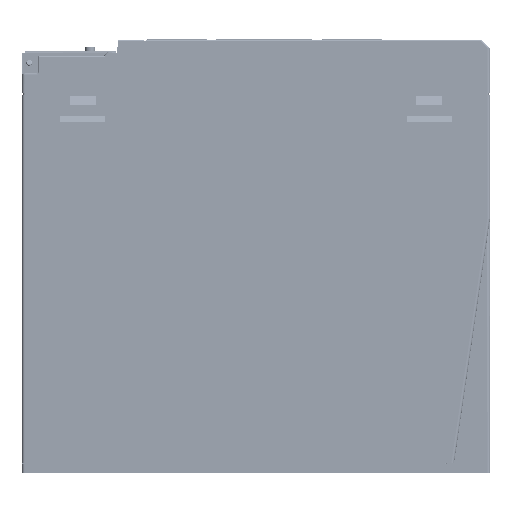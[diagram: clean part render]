
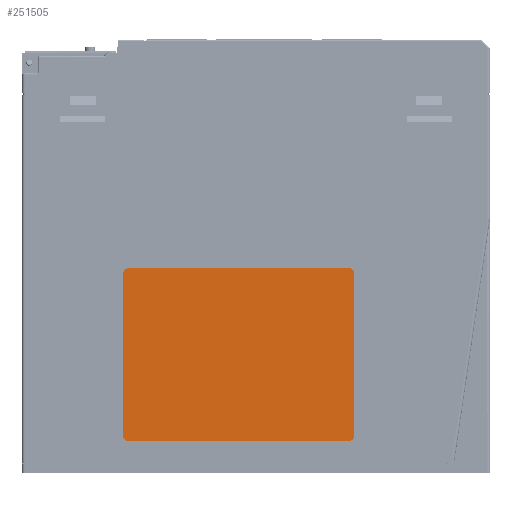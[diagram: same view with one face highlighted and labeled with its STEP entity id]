
A CAD part, left-side view. The second image highlights one B-rep face of the part: STEP entity #251505.
In plain terms, the highlighted planar face has unit normal (-1, 0, 0).
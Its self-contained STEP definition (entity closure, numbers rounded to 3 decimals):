
#251430=CARTESIAN_POINT('',(-13.7,-52.0,41.));
#251431=DIRECTION('',(-1.0,0.0,0.0));
#251432=DIRECTION('',(0.0,0.0,1.0));
#251433=AXIS2_PLACEMENT_3D('',#251430,#251431,#251432);
#251434=PLANE('',#251433);
#251435=CARTESIAN_POINT('',(-13.7,-12.,69.));
#251436=VERTEX_POINT('',#251435);
#251437=CARTESIAN_POINT('',(-13.7,-14.,71.));
#251438=VERTEX_POINT('',#251437);
#251439=CARTESIAN_POINT('',(-13.7,-14.,69.));
#251440=DIRECTION('',(1.0,0.0,0.0));
#251441=DIRECTION('',(0.0,0.0,-1.0));
#251442=AXIS2_PLACEMENT_3D('',#251439,#251440,#251441);
#251443=CIRCLE('',#251442,2.);
#251444=EDGE_CURVE('',#251436,#251438,#251443,.T.);
#251445=ORIENTED_EDGE('',*,*,#251444,.F.);
#251446=CARTESIAN_POINT('',(-13.7,-12.,13.));
#251447=VERTEX_POINT('',#251446);
#251448=CARTESIAN_POINT('',(-13.7,-12.,13.));
#251449=DIRECTION('',(0.0,0.0,1.0));
#251450=VECTOR('',#251449,56.);
#251451=LINE('',#251448,#251450);
#251452=EDGE_CURVE('',#251447,#251436,#251451,.T.);
#251453=ORIENTED_EDGE('',*,*,#251452,.F.);
#251454=CARTESIAN_POINT('',(-13.7,-14.,11.));
#251455=VERTEX_POINT('',#251454);
#251456=CARTESIAN_POINT('',(-13.7,-14.,13.));
#251457=DIRECTION('',(1.0,0.0,0.0));
#251458=DIRECTION('',(0.0,-1.0,0.0));
#251459=AXIS2_PLACEMENT_3D('',#251456,#251457,#251458);
#251460=CIRCLE('',#251459,2.);
#251461=EDGE_CURVE('',#251455,#251447,#251460,.T.);
#251462=ORIENTED_EDGE('',*,*,#251461,.F.);
#251463=CARTESIAN_POINT('',(-13.7,-90.,11.));
#251464=VERTEX_POINT('',#251463);
#251465=CARTESIAN_POINT('',(-13.7,-90.,11.));
#251466=DIRECTION('',(0.0,1.0,0.0));
#251467=VECTOR('',#251466,76.);
#251468=LINE('',#251465,#251467);
#251469=EDGE_CURVE('',#251464,#251455,#251468,.T.);
#251470=ORIENTED_EDGE('',*,*,#251469,.F.);
#251471=CARTESIAN_POINT('',(-13.7,-92.,13.));
#251472=VERTEX_POINT('',#251471);
#251473=CARTESIAN_POINT('',(-13.7,-90.,13.));
#251474=DIRECTION('',(1.0,0.0,0.0));
#251475=DIRECTION('',(0.0,0.0,1.0));
#251476=AXIS2_PLACEMENT_3D('',#251473,#251474,#251475);
#251477=CIRCLE('',#251476,2.);
#251478=EDGE_CURVE('',#251472,#251464,#251477,.T.);
#251479=ORIENTED_EDGE('',*,*,#251478,.F.);
#251480=CARTESIAN_POINT('',(-13.7,-92.,69.));
#251481=VERTEX_POINT('',#251480);
#251482=CARTESIAN_POINT('',(-13.7,-92.,69.));
#251483=DIRECTION('',(0.0,0.0,-1.0));
#251484=VECTOR('',#251483,56.);
#251485=LINE('',#251482,#251484);
#251486=EDGE_CURVE('',#251481,#251472,#251485,.T.);
#251487=ORIENTED_EDGE('',*,*,#251486,.F.);
#251488=CARTESIAN_POINT('',(-13.7,-90.,71.));
#251489=VERTEX_POINT('',#251488);
#251490=CARTESIAN_POINT('',(-13.7,-90.,69.));
#251491=DIRECTION('',(1.0,0.0,0.0));
#251492=DIRECTION('',(0.0,1.0,0.0));
#251493=AXIS2_PLACEMENT_3D('',#251490,#251491,#251492);
#251494=CIRCLE('',#251493,2.);
#251495=EDGE_CURVE('',#251489,#251481,#251494,.T.);
#251496=ORIENTED_EDGE('',*,*,#251495,.F.);
#251497=CARTESIAN_POINT('',(-13.7,-14.,71.));
#251498=DIRECTION('',(0.0,-1.0,0.0));
#251499=VECTOR('',#251498,76.);
#251500=LINE('',#251497,#251499);
#251501=EDGE_CURVE('',#251438,#251489,#251500,.T.);
#251502=ORIENTED_EDGE('',*,*,#251501,.F.);
#251503=EDGE_LOOP('',(#251445,#251453,#251462,#251470,#251479,#251487,#251496,#251502));
#251504=FACE_OUTER_BOUND('',#251503,.T.);
#251505=ADVANCED_FACE('',(#251504),#251434,.T.);
